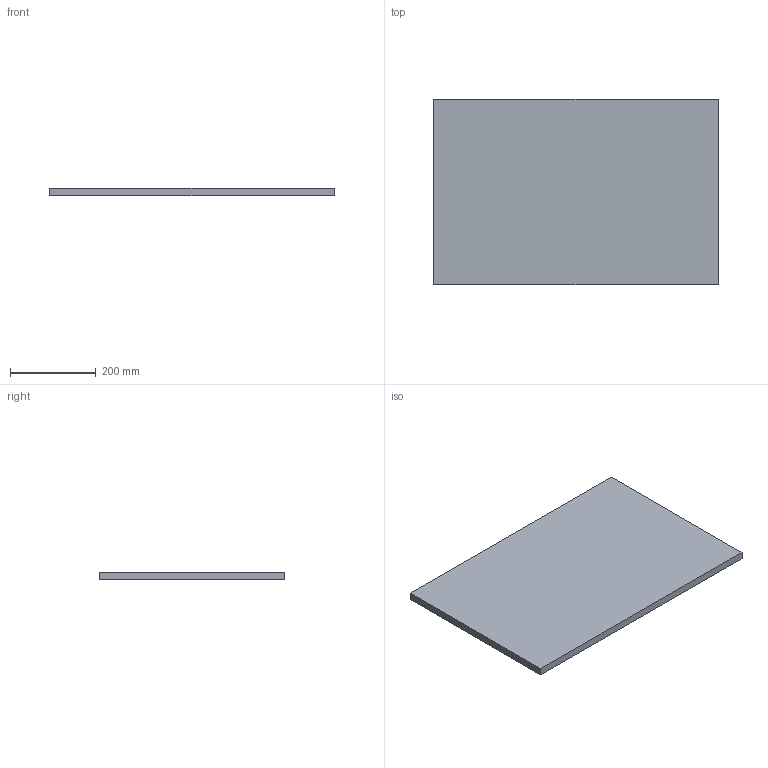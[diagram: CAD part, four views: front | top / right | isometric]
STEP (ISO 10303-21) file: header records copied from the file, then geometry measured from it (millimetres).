
FILE_DESCRIPTION(('Open CASCADE Model'),'2;1');
FILE_NAME('Open CASCADE Shape Model','2026-10-28T20:18:40',('Author'),( 'Open CASCADE'),'Open CASCADE STEP processor 7.8','Open CASCADE 7.8' ,'Unknown');
FILE_SCHEMA(('AUTOMOTIVE_DESIGN { 1 0 10303 214 1 1 1 1 }'));
Length unit declared in the file: millimetre
Products named in the file (1): Open CASCADE STEP translator 7.8 21
Bounding box: 664 x 432 x 18 mm (x, y, z)
Volume: 5163264 mm3; surface area: 613152 mm2
Topology: 1 solids, 1 shells, 6 faces, 12 edges, 8 vertices
Faces by surface type: plane 6
Entity records: 322 total; most frequent: CARTESIAN_POINT 51, DIRECTION 50, LINE 36, VECTOR 36, ORIENTED_EDGE 24, PCURVE 24, DEFINITIONAL_REPRESENTATION 24, EDGE_CURVE 12
